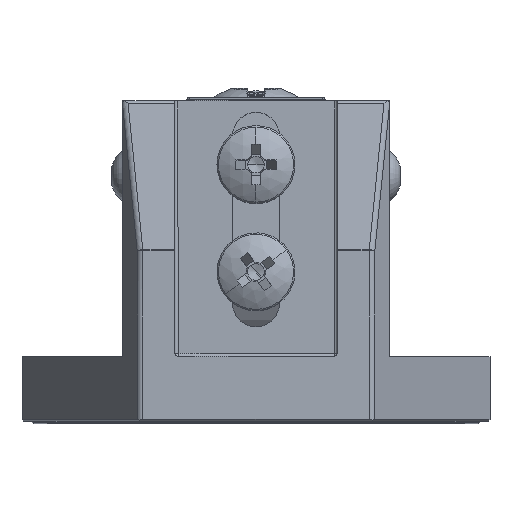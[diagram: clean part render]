
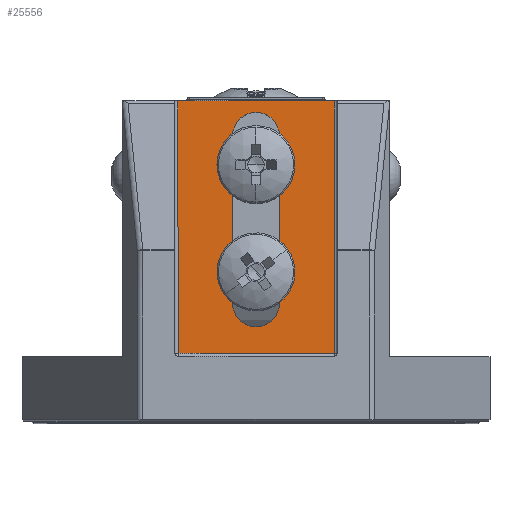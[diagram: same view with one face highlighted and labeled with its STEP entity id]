
A CAD part, top view. The second image highlights one B-rep face of the part: STEP entity #25556.
In plain terms, the highlighted planar face has unit normal (0, 0, 1).
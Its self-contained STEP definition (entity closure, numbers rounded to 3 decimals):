
#80 = AXIS2_PLACEMENT_3D ( 'NONE', #10492, #10363, #32028 ) ;
#218 = LINE ( 'NONE', #10050, #28253 ) ;
#1164 = CARTESIAN_POINT ( 'NONE',  ( 12., 49.3, 30. ) ) ;
#1633 = EDGE_CURVE ( 'NONE', #4734, #17752, #1672, .T. ) ;
#1672 = LINE ( 'NONE', #31652, #33054 ) ;
#3170 = DIRECTION ( 'NONE',  ( 0., 0., -1. ) ) ;
#3207 = CARTESIAN_POINT ( 'NONE',  ( -3.6, -22.65, 30. ) ) ;
#3429 = CARTESIAN_POINT ( 'NONE',  ( 0., 43.95, 30. ) ) ;
#3800 = CARTESIAN_POINT ( 'NONE',  ( -3.6, 43.95, 30. ) ) ;
#4538 = VERTEX_POINT ( 'NONE', #37427 ) ;
#4734 = VERTEX_POINT ( 'NONE', #1164 ) ;
#5917 = ORIENTED_EDGE ( 'NONE', *, *, #27429, .T. ) ;
#6407 = DIRECTION ( 'NONE',  ( -1., 0., 0. ) ) ;
#6748 = ORIENTED_EDGE ( 'NONE', *, *, #24510, .T. ) ;
#6763 = DIRECTION ( 'NONE',  ( 0., -1., 0. ) ) ;
#6834 = EDGE_CURVE ( 'NONE', #24335, #4734, #31795, .T. ) ;
#7402 = AXIS2_PLACEMENT_3D ( 'NONE', #3429, #3170, #36634 ) ;
#7937 = EDGE_LOOP ( 'NONE', ( #14728, #6748, #15492, #17420 ) ) ;
#8547 = VERTEX_POINT ( 'NONE', #3800 ) ;
#8930 = VERTEX_POINT ( 'NONE', #16814 ) ;
#8961 = ORIENTED_EDGE ( 'NONE', *, *, #31206, .T. ) ;
#9873 = CARTESIAN_POINT ( 'NONE',  ( -12., 49.3, 30. ) ) ;
#10050 = CARTESIAN_POINT ( 'NONE',  ( -12., 10., 30. ) ) ;
#10206 = VERTEX_POINT ( 'NONE', #24234 ) ;
#10363 = DIRECTION ( 'NONE',  ( 0., 0., -1. ) ) ;
#10492 = CARTESIAN_POINT ( 'NONE',  ( 0., 18.15, 30. ) ) ;
#10508 = EDGE_CURVE ( 'NONE', #4538, #8930, #35492, .T. ) ;
#11972 = VECTOR ( 'NONE', #15124, 1000. ) ;
#12735 = CIRCLE ( 'NONE', #7402, 3.6 ) ;
#12797 = AXIS2_PLACEMENT_3D ( 'NONE', #18617, #36915, #6407 ) ;
#13107 = LINE ( 'NONE', #3207, #32765 ) ;
#13739 = VERTEX_POINT ( 'NONE', #25984 ) ;
#14631 = VECTOR ( 'NONE', #34768, 1000. ) ;
#14728 = ORIENTED_EDGE ( 'NONE', *, *, #1633, .T. ) ;
#14764 = EDGE_LOOP ( 'NONE', ( #5917, #8961, #32501, #25221 ) ) ;
#15124 = DIRECTION ( 'NONE',  ( 1., 0., 0. ) ) ;
#15131 = DIRECTION ( 'NONE',  ( 0., 1., 0. ) ) ;
#15492 = ORIENTED_EDGE ( 'NONE', *, *, #26085, .T. ) ;
#16814 = CARTESIAN_POINT ( 'NONE',  ( -3.6, 18.15, 30. ) ) ;
#17420 = ORIENTED_EDGE ( 'NONE', *, *, #6834, .T. ) ;
#17752 = VERTEX_POINT ( 'NONE', #9873 ) ;
#17772 = CARTESIAN_POINT ( 'NONE',  ( 12., 10.5, 30. ) ) ;
#18183 = FACE_OUTER_BOUND ( 'NONE', #7937, .T. ) ;
#18617 = CARTESIAN_POINT ( 'NONE',  ( 12.5, -22.65, 30. ) ) ;
#21624 = LINE ( 'NONE', #28833, #26375 ) ;
#22950 = CARTESIAN_POINT ( 'NONE',  ( 12., 49.3, 30. ) ) ;
#24234 = CARTESIAN_POINT ( 'NONE',  ( 3.6, 43.95, 30. ) ) ;
#24335 = VERTEX_POINT ( 'NONE', #17772 ) ;
#24510 = EDGE_CURVE ( 'NONE', #17752, #13739, #218, .T. ) ;
#24601 = PLANE ( 'NONE',  #12797 ) ;
#25221 = ORIENTED_EDGE ( 'NONE', *, *, #10508, .T. ) ;
#25556 = ADVANCED_FACE ( 'NONE', ( #35290, #18183 ), #24601, .F. ) ;
#25984 = CARTESIAN_POINT ( 'NONE',  ( -12., 10.5, 30. ) ) ;
#26085 = EDGE_CURVE ( 'NONE', #13739, #24335, #26238, .T. ) ;
#26238 = LINE ( 'NONE', #30288, #11972 ) ;
#26375 = VECTOR ( 'NONE', #32433, 1000. ) ;
#27429 = EDGE_CURVE ( 'NONE', #8930, #8547, #13107, .T. ) ;
#28253 = VECTOR ( 'NONE', #6763, 1000. ) ;
#28833 = CARTESIAN_POINT ( 'NONE',  ( 3.6, -22.65, 30. ) ) ;
#30008 = EDGE_CURVE ( 'NONE', #10206, #4538, #21624, .T. ) ;
#30288 = CARTESIAN_POINT ( 'NONE',  ( 12.5, 10.5, 30. ) ) ;
#31206 = EDGE_CURVE ( 'NONE', #8547, #10206, #12735, .T. ) ;
#31652 = CARTESIAN_POINT ( 'NONE',  ( 12.5, 49.3, 30. ) ) ;
#31795 = LINE ( 'NONE', #22950, #14631 ) ;
#32028 = DIRECTION ( 'NONE',  ( -1., 0., 0. ) ) ;
#32433 = DIRECTION ( 'NONE',  ( 0., -1., 0. ) ) ;
#32501 = ORIENTED_EDGE ( 'NONE', *, *, #30008, .T. ) ;
#32765 = VECTOR ( 'NONE', #15131, 1000. ) ;
#33054 = VECTOR ( 'NONE', #37204, 1000. ) ;
#34768 = DIRECTION ( 'NONE',  ( 0., 1., 0. ) ) ;
#35290 = FACE_BOUND ( 'NONE', #14764, .T. ) ;
#35492 = CIRCLE ( 'NONE', #80, 3.6 ) ;
#36634 = DIRECTION ( 'NONE',  ( -1., 0., 0. ) ) ;
#36915 = DIRECTION ( 'NONE',  ( 0., 0., -1. ) ) ;
#37204 = DIRECTION ( 'NONE',  ( -1., 0., 0. ) ) ;
#37427 = CARTESIAN_POINT ( 'NONE',  ( 3.6, 18.15, 30. ) ) ;
